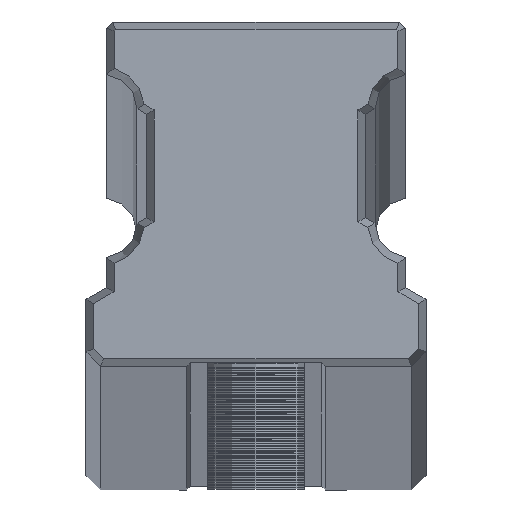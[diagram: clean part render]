
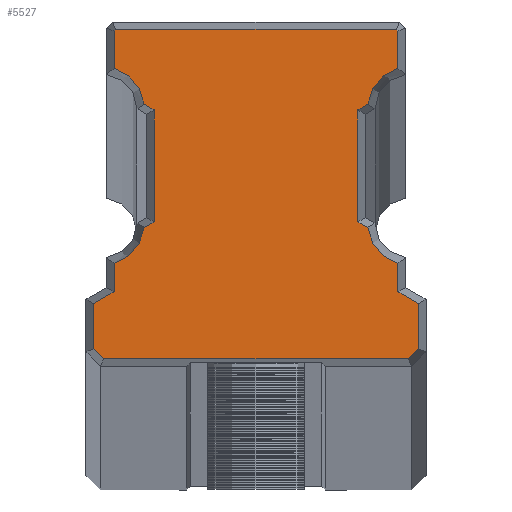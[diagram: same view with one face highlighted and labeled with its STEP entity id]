
A CAD part, top view. The second image highlights one B-rep face of the part: STEP entity #5527.
In plain terms, the highlighted planar face has unit normal (0, 0, 1).
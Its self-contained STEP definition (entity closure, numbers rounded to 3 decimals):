
#909=DIRECTION('',(1.,0.,0.));
#910=VECTOR('',#909,25.089);
#911=CARTESIAN_POINT('',(-12.544,0.617,0.));
#912=LINE('',#911,#910);
#913=DIRECTION('',(0.707,-0.707,0.));
#914=VECTOR('',#913,1.186);
#915=CARTESIAN_POINT('',(-13.383,1.456,0.));
#916=LINE('',#915,#914);
#917=DIRECTION('',(0.,-1.,0.));
#918=VECTOR('',#917,3.707);
#919=CARTESIAN_POINT('',(-13.383,5.162,0.));
#920=LINE('',#919,#918);
#921=DIRECTION('',(-0.866,-0.5,0.));
#922=VECTOR('',#921,1.963);
#923=CARTESIAN_POINT('',(-11.683,6.144,0.));
#924=LINE('',#923,#922);
#925=DIRECTION('',(0.,-1.,0.));
#926=VECTOR('',#925,2.327);
#927=CARTESIAN_POINT('',(-11.683,8.47,0.));
#928=LINE('',#927,#926);
#929=CARTESIAN_POINT('',(-12.658,11.808,0.));
#930=DIRECTION('',(0.,0.,-1.));
#931=DIRECTION('',(0.994,-0.111,0.));
#932=AXIS2_PLACEMENT_3D('',#929,#930,#931);
#934=DIRECTION('',(-0.866,-0.5,0.));
#935=VECTOR('',#934,0.946);
#936=CARTESIAN_POINT('',(-8.383,11.894,0.));
#937=LINE('',#936,#935);
#938=DIRECTION('',(0.,-1.,0.));
#939=VECTOR('',#938,9.213);
#940=CARTESIAN_POINT('',(-8.383,21.106,0.));
#941=LINE('',#940,#939);
#942=DIRECTION('',(0.866,-0.5,0.));
#943=VECTOR('',#942,0.946);
#944=CARTESIAN_POINT('',(-9.203,21.58,0.));
#945=LINE('',#944,#943);
#946=CARTESIAN_POINT('',(-12.658,21.192,0.));
#947=DIRECTION('',(0.,0.,-1.));
#948=DIRECTION('',(0.28,0.96,0.));
#949=AXIS2_PLACEMENT_3D('',#946,#947,#948);
#951=DIRECTION('',(0.,-1.,0.));
#952=VECTOR('',#951,3.07);
#953=CARTESIAN_POINT('',(-11.683,27.599,0.));
#954=LINE('',#953,#952);
#955=DIRECTION('',(-0.707,-0.707,0.));
#956=VECTOR('',#955,0.189);
#957=CARTESIAN_POINT('',(-11.549,27.733,0.));
#958=LINE('',#957,#956);
#959=DIRECTION('',(-1.,0.,0.));
#960=VECTOR('',#959,23.099);
#961=CARTESIAN_POINT('',(11.549,27.733,0.));
#962=LINE('',#961,#960);
#963=DIRECTION('',(-0.707,0.707,0.));
#964=VECTOR('',#963,0.189);
#965=CARTESIAN_POINT('',(11.683,27.599,0.));
#966=LINE('',#965,#964);
#967=DIRECTION('',(0.,1.,0.));
#968=VECTOR('',#967,3.07);
#969=CARTESIAN_POINT('',(11.683,24.53,0.));
#970=LINE('',#969,#968);
#971=CARTESIAN_POINT('',(12.658,21.192,0.));
#972=DIRECTION('',(0.,0.,-1.));
#973=DIRECTION('',(-0.994,0.111,0.));
#974=AXIS2_PLACEMENT_3D('',#971,#972,#973);
#976=DIRECTION('',(0.866,0.5,0.));
#977=VECTOR('',#976,0.946);
#978=CARTESIAN_POINT('',(8.383,21.106,0.));
#979=LINE('',#978,#977);
#980=DIRECTION('',(0.,1.,0.));
#981=VECTOR('',#980,9.213);
#982=CARTESIAN_POINT('',(8.383,11.894,0.));
#983=LINE('',#982,#981);
#984=DIRECTION('',(-0.866,0.5,0.));
#985=VECTOR('',#984,0.946);
#986=CARTESIAN_POINT('',(9.203,11.42,0.));
#987=LINE('',#986,#985);
#988=CARTESIAN_POINT('',(12.658,11.808,0.));
#989=DIRECTION('',(0.,0.,-1.));
#990=DIRECTION('',(-0.28,-0.96,0.));
#991=AXIS2_PLACEMENT_3D('',#988,#989,#990);
#993=DIRECTION('',(0.,1.,0.));
#994=VECTOR('',#993,2.327);
#995=CARTESIAN_POINT('',(11.683,6.144,0.));
#996=LINE('',#995,#994);
#997=DIRECTION('',(-0.866,0.5,0.));
#998=VECTOR('',#997,1.963);
#999=CARTESIAN_POINT('',(13.383,5.162,0.));
#1000=LINE('',#999,#998);
#1001=DIRECTION('',(0.,1.,0.));
#1002=VECTOR('',#1001,3.707);
#1003=CARTESIAN_POINT('',(13.383,1.456,0.));
#1004=LINE('',#1003,#1002);
#1005=DIRECTION('',(0.707,0.707,0.));
#1006=VECTOR('',#1005,1.186);
#1007=CARTESIAN_POINT('',(12.544,0.617,0.));
#1008=LINE('',#1007,#1006);
#3861=CARTESIAN_POINT('',(-12.544,0.617,0.));
#3862=CARTESIAN_POINT('',(12.544,0.617,0.));
#3863=VERTEX_POINT('',#3861);
#3864=VERTEX_POINT('',#3862);
#3865=CARTESIAN_POINT('',(13.383,1.456,0.));
#3866=VERTEX_POINT('',#3865);
#3867=CARTESIAN_POINT('',(13.383,5.162,0.));
#3868=VERTEX_POINT('',#3867);
#3869=CARTESIAN_POINT('',(11.683,6.144,0.));
#3870=VERTEX_POINT('',#3869);
#3871=CARTESIAN_POINT('',(11.683,8.47,0.));
#3872=VERTEX_POINT('',#3871);
#3873=CARTESIAN_POINT('',(9.203,11.42,0.));
#3874=VERTEX_POINT('',#3873);
#3875=CARTESIAN_POINT('',(8.383,11.894,0.));
#3876=VERTEX_POINT('',#3875);
#3877=CARTESIAN_POINT('',(8.383,21.106,0.));
#3878=VERTEX_POINT('',#3877);
#3879=CARTESIAN_POINT('',(9.203,21.58,0.));
#3880=VERTEX_POINT('',#3879);
#3881=CARTESIAN_POINT('',(11.683,24.53,0.));
#3882=VERTEX_POINT('',#3881);
#3883=CARTESIAN_POINT('',(11.683,27.599,0.));
#3884=VERTEX_POINT('',#3883);
#3885=CARTESIAN_POINT('',(11.549,27.733,0.));
#3886=VERTEX_POINT('',#3885);
#3887=CARTESIAN_POINT('',(-11.549,27.733,0.));
#3888=VERTEX_POINT('',#3887);
#3889=CARTESIAN_POINT('',(-11.683,27.599,0.));
#3890=VERTEX_POINT('',#3889);
#3891=CARTESIAN_POINT('',(-11.683,24.53,0.));
#3892=VERTEX_POINT('',#3891);
#3893=CARTESIAN_POINT('',(-9.203,21.58,0.));
#3894=VERTEX_POINT('',#3893);
#3895=CARTESIAN_POINT('',(-8.383,21.106,0.));
#3896=VERTEX_POINT('',#3895);
#3897=CARTESIAN_POINT('',(-8.383,11.894,0.));
#3898=VERTEX_POINT('',#3897);
#3899=CARTESIAN_POINT('',(-9.203,11.42,0.));
#3900=VERTEX_POINT('',#3899);
#3901=CARTESIAN_POINT('',(-11.683,8.47,0.));
#3902=VERTEX_POINT('',#3901);
#3903=CARTESIAN_POINT('',(-11.683,6.144,0.));
#3904=VERTEX_POINT('',#3903);
#3905=CARTESIAN_POINT('',(-13.383,5.162,0.));
#3906=VERTEX_POINT('',#3905);
#3907=CARTESIAN_POINT('',(-13.383,1.456,0.));
#3908=VERTEX_POINT('',#3907);
#5473=CARTESIAN_POINT('',(0.,0.,0.));
#5474=DIRECTION('',(0.,0.,1.));
#5475=DIRECTION('',(1.,0.,0.));
#5476=AXIS2_PLACEMENT_3D('',#5473,#5474,#5475);
#5477=PLANE('',#5476);
#5479=ORIENTED_EDGE('',*,*,#5478,.F.);
#5481=ORIENTED_EDGE('',*,*,#5480,.F.);
#5483=ORIENTED_EDGE('',*,*,#5482,.F.);
#5485=ORIENTED_EDGE('',*,*,#5484,.F.);
#5487=ORIENTED_EDGE('',*,*,#5486,.F.);
#5489=ORIENTED_EDGE('',*,*,#5488,.F.);
#5491=ORIENTED_EDGE('',*,*,#5490,.F.);
#5493=ORIENTED_EDGE('',*,*,#5492,.F.);
#5495=ORIENTED_EDGE('',*,*,#5494,.F.);
#5497=ORIENTED_EDGE('',*,*,#5496,.F.);
#5498=ORIENTED_EDGE('',*,*,#5463,.F.);
#5500=ORIENTED_EDGE('',*,*,#5499,.F.);
#5502=ORIENTED_EDGE('',*,*,#5501,.F.);
#5504=ORIENTED_EDGE('',*,*,#5503,.F.);
#5506=ORIENTED_EDGE('',*,*,#5505,.F.);
#5508=ORIENTED_EDGE('',*,*,#5507,.F.);
#5510=ORIENTED_EDGE('',*,*,#5509,.F.);
#5512=ORIENTED_EDGE('',*,*,#5511,.F.);
#5514=ORIENTED_EDGE('',*,*,#5513,.F.);
#5516=ORIENTED_EDGE('',*,*,#5515,.F.);
#5518=ORIENTED_EDGE('',*,*,#5517,.F.);
#5520=ORIENTED_EDGE('',*,*,#5519,.F.);
#5522=ORIENTED_EDGE('',*,*,#5521,.F.);
#5524=ORIENTED_EDGE('',*,*,#5523,.F.);
#5525=EDGE_LOOP('',(#5479,#5481,#5483,#5485,#5487,#5489,#5491,#5493,#5495,#5497,
#5498,#5500,#5502,#5504,#5506,#5508,#5510,#5512,#5514,#5516,#5518,#5520,#5522,
#5524));
#5526=FACE_OUTER_BOUND('',#5525,.F.);
#933=CIRCLE('',#932,3.477);
#950=CIRCLE('',#949,3.477);
#975=CIRCLE('',#974,3.477);
#992=CIRCLE('',#991,3.477);
#5463=EDGE_CURVE('',#3890,#3892,#954,.T.);
#5478=EDGE_CURVE('',#3863,#3864,#912,.T.);
#5480=EDGE_CURVE('',#3908,#3863,#916,.T.);
#5482=EDGE_CURVE('',#3906,#3908,#920,.T.);
#5484=EDGE_CURVE('',#3904,#3906,#924,.T.);
#5486=EDGE_CURVE('',#3902,#3904,#928,.T.);
#5488=EDGE_CURVE('',#3900,#3902,#933,.T.);
#5490=EDGE_CURVE('',#3898,#3900,#937,.T.);
#5492=EDGE_CURVE('',#3896,#3898,#941,.T.);
#5494=EDGE_CURVE('',#3894,#3896,#945,.T.);
#5496=EDGE_CURVE('',#3892,#3894,#950,.T.);
#5499=EDGE_CURVE('',#3888,#3890,#958,.T.);
#5501=EDGE_CURVE('',#3886,#3888,#962,.T.);
#5503=EDGE_CURVE('',#3884,#3886,#966,.T.);
#5505=EDGE_CURVE('',#3882,#3884,#970,.T.);
#5507=EDGE_CURVE('',#3880,#3882,#975,.T.);
#5509=EDGE_CURVE('',#3878,#3880,#979,.T.);
#5511=EDGE_CURVE('',#3876,#3878,#983,.T.);
#5513=EDGE_CURVE('',#3874,#3876,#987,.T.);
#5515=EDGE_CURVE('',#3872,#3874,#992,.T.);
#5517=EDGE_CURVE('',#3870,#3872,#996,.T.);
#5519=EDGE_CURVE('',#3868,#3870,#1000,.T.);
#5521=EDGE_CURVE('',#3866,#3868,#1004,.T.);
#5523=EDGE_CURVE('',#3864,#3866,#1008,.T.);
#5527=ADVANCED_FACE('',(#5526),#5477,.T.);
